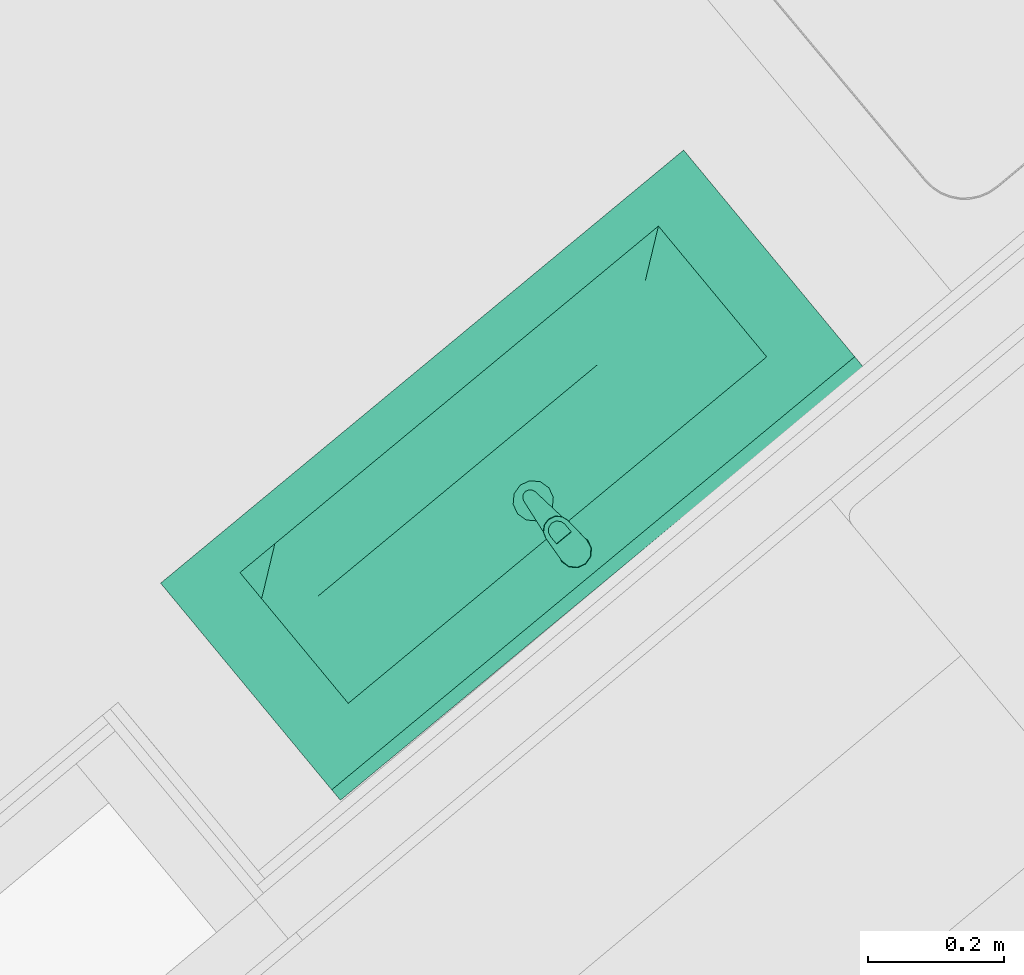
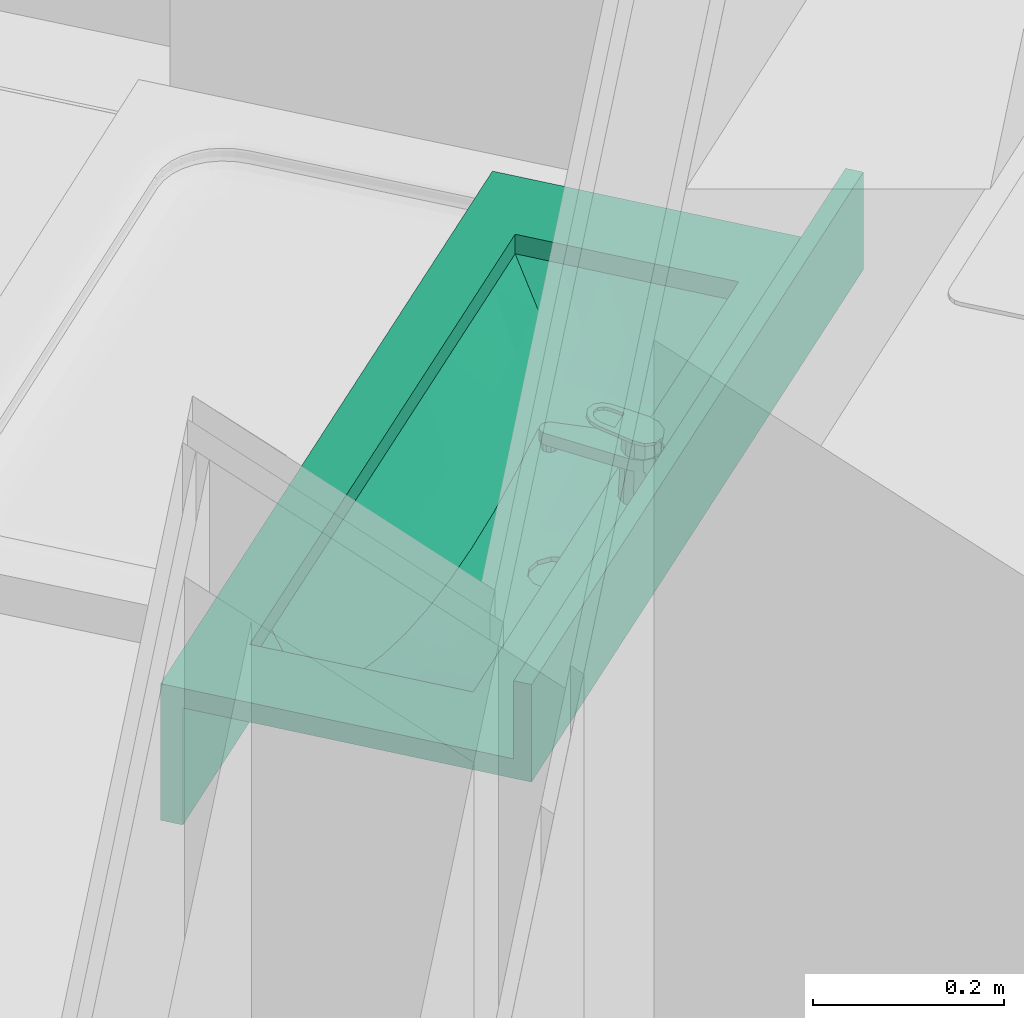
# One storey, part 54 of 58: 1 sanitary terminal.
"""IFC4 building model written with IfcOpenShell, lengths in metres."""

from ifc_helpers import new_model, entity, si_unit, converted_unit, derived_unit, direction, frame, origin_with_axes, place, context, subcontext, project, spatial, polygons, source, transform, mapped, type_object, element, save


model = new_model("IFC4")

# Units and contexts
model_context = context("Model", 3, precision=1e-05, world=origin_with_axes(), true_north=direction((0.0, 1.0)))
body_context = subcontext(model_context, "Body", "Model", "MODEL_VIEW")
ifc_project = project(units=[si_unit("LENGTHUNIT", "METRE"), si_unit("AREAUNIT", "SQUARE_METRE"), si_unit("VOLUMEUNIT", "CUBIC_METRE"), converted_unit("PLANEANGLEUNIT", "DEGREE", entity("IfcPlaneAngleMeasure", 0.0174532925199), si_unit("PLANEANGLEUNIT", "RADIAN"), dimensions=[0, 0, 0, 0, 0, 0, 0]), converted_unit("TIMEUNIT", "Year", entity("IfcTimeMeasure", 31556926.0), si_unit("TIMEUNIT", "SECOND"), dimensions=[0, 0, 1, 0, 0, 0, 0]), si_unit("MASSUNIT", "GRAM", prefix="KILO"), si_unit("THERMODYNAMICTEMPERATUREUNIT", "DEGREE_CELSIUS"), si_unit("LUMINOUSINTENSITYUNIT", "LUMEN"), si_unit("ENERGYUNIT", "JOULE", prefix="MEGA"), derived_unit("THERMALCONDUCTANCEUNIT", [(si_unit("POWERUNIT", "WATT"), 1), (si_unit("LENGTHUNIT", "METRE"), -1), (si_unit("THERMODYNAMICTEMPERATUREUNIT", "KELVIN"), -1)]), derived_unit("SPECIFICHEATCAPACITYUNIT", [(si_unit("ENERGYUNIT", "JOULE"), 1), (si_unit("MASSUNIT", "GRAM", prefix="KILO"), -1), (si_unit("THERMODYNAMICTEMPERATUREUNIT", "KELVIN"), -1)]), derived_unit("MASSDENSITYUNIT", [(si_unit("MASSUNIT", "GRAM", prefix="KILO"), 1), (si_unit("VOLUMEUNIT", "CUBIC_METRE"), -1)])], contexts=[model_context])

# Site, building, storey
site_placement = place(None, frame((-0.00153261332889, -0.00661245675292, 0.0), z_axis=(0.0, 0.0, 1.0), x_axis=(1.0, 0.0, 0.0)))
site = spatial("IfcSite", under=ifc_project, at=site_placement, Name="Site", CompositionType="ELEMENT")
building_placement = place(site_placement, origin_with_axes())
building = spatial("IfcBuilding", under=site, at=building_placement, Name="Building", CompositionType="ELEMENT")
storey_placement = place(building_placement, frame((0.0, 0.0, 5.7), z_axis=(0.0, 0.0, 1.0), x_axis=(1.0, 0.0, 0.0)))
storey = spatial("IfcBuildingStorey", under=building, at=storey_placement, Name="DG1", CompositionType="ELEMENT", Elevation=5.7)

# Sanitary terminal
sanitary_terminal_type = type_object("IfcSanitaryTerminalType", Name="Waschbecken mehrfach 26", PredefinedType="NOTDEFINED")
shared_shape = source(origin_with_axes(), body_context, "Body", "Tessellation", [
    polygons([(-0.5, 0.0, 0.875), (0.5, 0.0, 0.875), (0.5, -0.415119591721, 0.875), (-0.5, -0.415119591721, 0.875), (-0.4, -0.35255979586, 0.875), (0.4, -0.35255979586, 0.875), (0.4, -0.10255979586, 0.875), (-0.4, -0.10255979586, 0.875), (-0.5, 0.0, 0.9), (0.5, 0.0, 0.9), (0.5, -0.415119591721, 0.9), (-0.5, -0.415119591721, 0.9), (-0.4, -0.35255979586, 0.9), (0.4, -0.35255979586, 0.9), (0.4, -0.10255979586, 0.9), (-0.4, -0.10255979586, 0.9)], [[[1, 2, 3, 4], [5, 6, 7, 8]], [[1, 9, 10, 2]], [[2, 10, 11, 3]], [[3, 11, 12, 4]], [[4, 12, 9, 1]], [[13, 14, 6, 5]], [[14, 15, 7, 6]], [[15, 16, 8, 7]], [[16, 13, 5, 8]], [[11, 10, 9, 12], [13, 16, 15, 14]]], closed=True),
    polygons([(-0.5, -0.02, 0.9), (0.5, -0.02, 0.9), (0.5, -0.02, 1.0), (-0.5, -0.02, 1.0), (-0.5, 0.0, 0.9), (0.5, 0.0, 0.9), (0.5, 0.0, 1.0), (-0.5, 0.0, 1.0)], [[[1, 2, 3, 4]], [[1, 5, 6, 2]], [[2, 6, 7, 3]], [[4, 3, 7, 8]], [[5, 1, 4, 8]], [[6, 5, 8, 7]]], closed=True),
    polygons([(-0.5, -0.415119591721, 0.725), (0.5, -0.415119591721, 0.725), (0.5, -0.415119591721, 0.875), (-0.5, -0.415119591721, 0.875), (-0.5, -0.390119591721, 0.725), (0.5, -0.390119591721, 0.725), (0.5, -0.390119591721, 0.875), (-0.5, -0.390119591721, 0.875)], [[[1, 2, 3, 4]], [[1, 5, 6, 2]], [[2, 6, 7, 3]], [[4, 3, 7, 8]], [[5, 1, 4, 8]], [[6, 5, 8, 7]]], closed=True),
    polygons([(0.0, -0.18855104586, 0.775), (-0.015, -0.184531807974, 0.775589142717), (-0.0259807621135, -0.17355104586, 0.776020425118), (-0.03, -0.15855104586, 0.776178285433), (-0.0283946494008, -0.15255979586, 0.776115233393), (-0.0666666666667, -0.15255979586, 0.777618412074), (-0.0666666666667, -0.20255979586, 0.777618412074), (0.0, -0.20255979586, 0.775), (-0.015, -0.132570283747, 0.775589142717), (0.0, -0.12855104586, 0.775), (0.0, -0.10255979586, 0.775), (-0.0666666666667, -0.10255979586, 0.777618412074), (-0.0259807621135, -0.14355104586, 0.776020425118), (-0.133333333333, -0.15255979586, 0.785522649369), (-0.133333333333, -0.20255979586, 0.785522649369), (-0.0666666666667, -0.25255979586, 0.787498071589), (0.0666666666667, -0.15255979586, 0.777618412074), (0.0283946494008, -0.15255979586, 0.776115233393), (0.03, -0.15855104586, 0.776178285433), (0.0259807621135, -0.17355104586, 0.776020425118), (0.015, -0.184531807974, 0.775589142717), (0.0666666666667, -0.20255979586, 0.777618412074), (0.015, -0.132570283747, 0.775589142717), (0.0259807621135, -0.14355104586, 0.776020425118), (0.0666666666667, -0.10255979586, 0.777618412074), (0.2, -0.10255979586, 0.798864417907), (0.266666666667, -0.10255979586, 0.81791333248), (0.333333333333, -0.10255979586, 0.843086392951), (0.4, -0.10255979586, 0.875), (-0.4, -0.10255979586, 0.875), (-0.333333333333, -0.10255979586, 0.843086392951), (-0.266666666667, -0.10255979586, 0.81791333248), (-0.2, -0.10255979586, 0.798864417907), (-0.133333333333, -0.10255979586, 0.785522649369), (0.133333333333, -0.10255979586, 0.785522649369), (-0.2, -0.15255979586, 0.798864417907), (-0.2, -0.20255979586, 0.798864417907), (-0.133333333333, -0.25255979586, 0.794673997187), (0.0, -0.25255979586, 0.785118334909), (0.133333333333, -0.20255979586, 0.785522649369), (0.133333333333, -0.15255979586, 0.785522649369), (0.266666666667, -0.15255979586, 0.81791333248), (0.2, -0.15255979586, 0.798864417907), (0.333333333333, -0.15255979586, 0.843086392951), (0.4, -0.15255979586, 0.875), (-0.333333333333, -0.15255979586, 0.843086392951), (-0.4, -0.15255979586, 0.875), (-0.266666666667, -0.15255979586, 0.81791333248), (-0.266666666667, -0.20255979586, 0.81791333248), (-0.2, -0.25255979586, 0.80675915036), (-0.0666666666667, -0.30255979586, 0.828578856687), (-0.133333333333, -0.30255979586, 0.832507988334), (0.0666666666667, -0.25255979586, 0.787498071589), (0.2, -0.20255979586, 0.798864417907), (0.266666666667, -0.20255979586, 0.81791333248), (0.333333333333, -0.20255979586, 0.843086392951), (0.4, -0.20255979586, 0.875), (0.4, -0.25255979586, 0.875), (0.4, -0.30255979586, 0.875), (0.4, -0.35255979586, 0.875), (-0.4, -0.25255979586, 0.875), (-0.4, -0.20255979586, 0.875), (-0.4, -0.35255979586, 0.875), (-0.4, -0.30255979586, 0.875), (-0.333333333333, -0.20255979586, 0.843086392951), (-0.266666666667, -0.25255979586, 0.823952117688), (-0.2, -0.30255979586, 0.839076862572), (0.0, -0.30255979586, 0.827271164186), (0.133333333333, -0.25255979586, 0.794673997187), (0.2, -0.25255979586, 0.80675915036), (0.266666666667, -0.25255979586, 0.823952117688), (0.333333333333, -0.25255979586, 0.846554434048), (0.333333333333, -0.30255979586, 0.860271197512), (0.333333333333, -0.35255979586, 0.875), (-0.333333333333, -0.30255979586, 0.860271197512), (-0.333333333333, -0.25255979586, 0.846554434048), (-0.266666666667, -0.30255979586, 0.848316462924), (-0.0666666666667, -0.35255979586, 0.875), (-0.133333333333, -0.35255979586, 0.875), (-0.2, -0.35255979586, 0.875), (0.0666666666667, -0.30255979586, 0.828578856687), (-0.266666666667, -0.35255979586, 0.875), (-0.333333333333, -0.35255979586, 0.875), (0.266666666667, -0.35255979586, 0.875), (0.2, -0.35255979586, 0.875), (0.133333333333, -0.35255979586, 0.875), (0.0666666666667, -0.35255979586, 0.875), (0.0, -0.35255979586, 0.875), (0.133333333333, -0.30255979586, 0.832507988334), (0.2, -0.30255979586, 0.839076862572), (0.266666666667, -0.30255979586, 0.848316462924)], [[[1, 2, 3, 4, 5, 6, 7, 8]], [[9, 10, 11, 12, 6, 5, 13]], [[7, 6, 14, 15]], [[16, 8, 7]], [[17, 18, 19, 20, 21, 1, 8, 22]], [[10, 23, 24, 18, 17, 25, 11]], [[26, 27, 28, 29, 30, 31, 32, 33, 34, 12, 11, 25, 35]], [[6, 12, 34, 14]], [[15, 14, 36, 37]], [[38, 7, 15]], [[16, 39, 8]], [[38, 16, 7]], [[39, 22, 8]], [[40, 41, 17, 22]], [[41, 35, 25, 17]], [[42, 27, 26, 43]], [[44, 28, 27, 42]], [[45, 29, 28, 44]], [[46, 31, 30, 47]], [[48, 32, 31, 46]], [[36, 33, 32, 48]], [[14, 34, 33, 36]], [[43, 26, 35, 41]], [[37, 36, 48, 49]], [[50, 15, 37]], [[50, 38, 15]], [[51, 39, 16]], [[52, 16, 38]], [[39, 53, 22]], [[54, 43, 41, 40]], [[53, 40, 22]], [[55, 42, 43, 54]], [[56, 44, 42, 55]], [[57, 58, 59, 60, 29, 45]], [[57, 45, 44, 56]], [[61, 62, 47, 30, 63, 64]], [[65, 46, 47, 62]], [[49, 48, 46, 65]], [[66, 37, 49]], [[66, 50, 37]], [[67, 38, 50]], [[51, 68, 39]], [[52, 51, 16]], [[67, 52, 38]], [[68, 53, 39]], [[69, 54, 40]], [[53, 69, 40]], [[70, 55, 54]], [[71, 56, 55]], [[72, 58, 57]], [[73, 59, 58]], [[74, 60, 59]], [[72, 57, 56]], [[61, 65, 62]], [[63, 75, 64]], [[64, 76, 61]], [[76, 49, 65]], [[76, 66, 49]], [[77, 50, 66]], [[77, 67, 50]], [[78, 68, 51]], [[79, 51, 52]], [[80, 52, 67]], [[68, 81, 53]], [[69, 70, 54]], [[81, 69, 53]], [[70, 71, 55]], [[71, 72, 56]], [[73, 58, 72]], [[74, 59, 73]], [[80, 82, 83, 63, 60, 74, 84, 85, 86, 87, 88, 78, 79]], [[61, 76, 65]], [[63, 83, 75]], [[64, 75, 76]], [[75, 66, 76]], [[75, 77, 66]], [[82, 67, 77]], [[78, 88, 68]], [[79, 78, 51]], [[80, 79, 52]], [[82, 80, 67]], [[88, 81, 68]], [[89, 70, 69]], [[81, 89, 69]], [[90, 71, 70]], [[91, 72, 71]], [[91, 73, 72]], [[84, 74, 73]], [[83, 82, 77]], [[85, 84, 91]], [[86, 85, 90]], [[87, 86, 89]], [[88, 87, 81]], [[83, 77, 75]], [[89, 90, 70]], [[87, 89, 81]], [[90, 91, 71]], [[84, 73, 91]], [[85, 91, 90]], [[86, 90, 89]]], closed=False),
    polygons([(0.03, -0.15855104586, 0.776178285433), (0.0259807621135, -0.17355104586, 0.776020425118), (0.0259807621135, -0.17355104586, 0.77), (0.03, -0.15855104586, 0.77), (0.015, -0.184531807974, 0.775589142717), (0.015, -0.184531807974, 0.77), (0.0, -0.12855104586, 0.77), (0.015, -0.132570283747, 0.77), (0.0259807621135, -0.14355104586, 0.77), (0.0, -0.18855104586, 0.77), (-0.015, -0.184531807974, 0.77), (-0.0259807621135, -0.17355104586, 0.77), (-0.03, -0.15855104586, 0.77), (-0.0259807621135, -0.14355104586, 0.77), (-0.015, -0.132570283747, 0.77), (0.0259807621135, -0.14355104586, 0.776020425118), (0.0, -0.18855104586, 0.775), (0.0, -0.12855104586, 0.775), (0.015, -0.132570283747, 0.775589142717), (-0.015, -0.184531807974, 0.775589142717), (-0.0259807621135, -0.17355104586, 0.776020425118), (-0.03, -0.15855104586, 0.776178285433), (-0.0259807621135, -0.14355104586, 0.776020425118), (-0.015, -0.132570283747, 0.775589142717)], [[[1, 2, 3, 4]], [[2, 5, 6, 3]], [[7, 8, 9, 4, 3, 6, 10, 11, 12, 13, 14, 15]], [[16, 1, 4, 9]], [[5, 17, 10, 6]], [[18, 19, 8, 7]], [[19, 16, 9, 8]], [[17, 20, 11, 10]], [[20, 21, 12, 11]], [[21, 22, 13, 12]], [[22, 23, 14, 13]], [[23, 24, 15, 14]], [[24, 18, 7, 15]]], closed=False),
    polygons([(0.0125, -0.0409091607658, 0.9), (0.0, -0.0375597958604, 0.9), (0.0, -0.0413578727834, 0.975961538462), (0.0105873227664, -0.0442220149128, 0.976507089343), (0.0216506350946, -0.0500597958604, 0.9), (0.025, -0.0625597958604, 0.9), (0.0216506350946, -0.0750597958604, 0.9), (0.0125, -0.084210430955, 0.9), (0.0, -0.0875597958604, 0.9), (-0.0125, -0.084210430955, 0.9), (-0.0216506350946, -0.0750597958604, 0.9), (-0.025, -0.0625597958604, 0.9), (-0.0216506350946, -0.0500597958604, 0.9), (-0.0125, -0.0409091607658, 0.9), (-0.0105873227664, -0.0442220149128, 0.976507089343), (-0.0182735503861, -0.0520095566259, 0.977990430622), (-0.021, -0.0625597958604, 0.98), (-0.0181003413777, -0.0730100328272, 0.981990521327), (-0.0104141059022, -0.0805975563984, 0.983435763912), (0.0, -0.0833616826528, 0.983962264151), (0.0104141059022, -0.0805975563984, 0.983435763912), (0.0181003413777, -0.0730100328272, 0.981990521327), (0.021, -0.0625597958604, 0.98), (0.0182735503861, -0.0520095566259, 0.977990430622)], [[[1, 2, 3, 4]], [[1, 5, 6, 7, 8, 9, 10, 11, 12, 13, 14, 2]], [[2, 14, 15, 3]], [[4, 3, 15, 16, 17, 18, 19, 20, 21, 22, 23, 24]], [[5, 1, 4, 24]], [[6, 5, 24, 23]], [[7, 6, 23, 22]], [[8, 7, 22, 21]], [[9, 8, 21, 20]], [[10, 9, 20, 19]], [[11, 10, 19, 18]], [[12, 11, 18, 17]], [[13, 12, 17, 16]], [[14, 13, 16, 15]]], closed=True),
    polygons([(0.009, -0.16555979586, 0.935), (0.00779422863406, -0.16105979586, 0.935), (0.00779422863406, -0.16105979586, 0.945), (0.009, -0.16555979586, 0.945), (0.00779422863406, -0.17005979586, 0.935), (0.0045, -0.173354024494, 0.935), (0.0, -0.17455979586, 0.935), (-0.0045, -0.173354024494, 0.935), (-0.00779422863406, -0.17005979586, 0.935), (-0.009, -0.16555979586, 0.935), (-0.00779422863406, -0.16105979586, 0.935), (-0.0045, -0.157765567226, 0.935), (0.0, -0.15655979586, 0.935), (0.0045, -0.157765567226, 0.935), (0.0045, -0.157765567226, 0.945), (0.0, -0.15655979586, 0.945), (-0.0045, -0.157765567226, 0.945), (-0.00779422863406, -0.16105979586, 0.945), (-0.009, -0.16555979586, 0.945), (-0.00779422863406, -0.17005979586, 0.945), (-0.0045, -0.173354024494, 0.945), (0.0, -0.17455979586, 0.945), (0.0045, -0.173354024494, 0.945), (0.00779422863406, -0.17005979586, 0.945)], [[[1, 2, 3, 4]], [[1, 5, 6, 7, 8, 9, 10, 11, 12, 13, 14, 2]], [[2, 14, 15, 3]], [[4, 3, 15, 16, 17, 18, 19, 20, 21, 22, 23, 24]], [[5, 1, 4, 24]], [[6, 5, 24, 23]], [[7, 6, 23, 22]], [[8, 7, 22, 21]], [[9, 8, 21, 20]], [[10, 9, 20, 19]], [[11, 10, 19, 18]], [[12, 11, 18, 17]], [[13, 12, 17, 16]], [[14, 13, 16, 15]]], closed=True),
    polygons([(-0.0128717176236, -0.0423034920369, 0.96), (-0.021727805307, -0.0523665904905, 0.96), (-0.0238054, -0.0656096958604, 0.96), (-0.010911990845, -0.166948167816, 0.96), (-0.00902887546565, -0.17184299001, 0.96), (-0.00509332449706, -0.175309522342, 0.96), (3.62679860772e-08, -0.176559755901, 0.96), (0.00509338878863, -0.175309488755, 0.96), (0.00902891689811, -0.171842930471, 0.96), (0.010912, -0.16694809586, 0.96), (0.0238053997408, -0.0656096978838, 0.96), (0.0217278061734, -0.0523665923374, 0.96), (0.0128717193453, -0.042303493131, 0.96), (1.01998896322e-09, -0.0385598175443, 0.96), (0.011, -0.0435072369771, 0.96), (0.0190525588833, -0.0515597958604, 0.96), (0.022, -0.0625597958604, 0.96), (0.0190525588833, -0.0735597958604, 0.96), (0.011, -0.0816123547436, 0.96), (0.0, -0.0845597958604, 0.96), (-0.011, -0.0816123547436, 0.96), (-0.0190525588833, -0.0735597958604, 0.96), (-0.022, -0.0625597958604, 0.96), (-0.0190525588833, -0.0515597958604, 0.96), (-0.011, -0.0435072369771, 0.96), (0.0, -0.0405597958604, 0.96), (-0.021727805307, -0.0523665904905, 0.945), (-0.0128717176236, -0.0423034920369, 0.945), (-0.0238054, -0.0656096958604, 0.945), (-0.010911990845, -0.166948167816, 0.945), (-0.00902887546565, -0.17184299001, 0.945), (-0.00509332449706, -0.175309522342, 0.945), (3.62679860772e-08, -0.176559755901, 0.945), (0.00509338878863, -0.175309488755, 0.945), (0.00902891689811, -0.171842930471, 0.945), (0.010912, -0.16694809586, 0.945), (0.0238053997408, -0.0656096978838, 0.945), (0.0217278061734, -0.0523665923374, 0.945), (0.0128717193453, -0.042303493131, 0.945), (1.01998896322e-09, -0.0385598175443, 0.945), (0.011375, -0.0428577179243, 0.945), (0.0197020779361, -0.0511847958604, 0.945), (0.02275, -0.0625597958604, 0.945), (0.0197020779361, -0.0739347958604, 0.945), (0.011375, -0.0822618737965, 0.945), (0.0, -0.0853097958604, 0.945), (-0.011375, -0.0822618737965, 0.945), (-0.0197020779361, -0.0739347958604, 0.945), (-0.02275, -0.0625597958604, 0.945), (-0.0197020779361, -0.0511847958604, 0.945), (-0.011375, -0.0428577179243, 0.945), (0.0, -0.0398097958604, 0.945)], [[[1, 2, 3, 4, 5, 6, 7, 8, 9, 10, 11, 12, 13, 14], [15, 16, 17, 18, 19, 20, 21, 22, 23, 24, 25, 26]], [[27, 2, 1, 28]], [[29, 3, 2, 27]], [[30, 4, 3, 29]], [[31, 5, 4, 30]], [[32, 6, 5, 31]], [[33, 7, 6, 32]], [[34, 8, 7, 33]], [[35, 9, 8, 34]], [[36, 10, 9, 35]], [[37, 11, 10, 36]], [[38, 12, 11, 37]], [[39, 13, 12, 38]], [[40, 14, 13, 39]], [[28, 1, 14, 40]], [[41, 42, 16, 15]], [[42, 43, 17, 16]], [[43, 44, 18, 17]], [[44, 45, 19, 18]], [[45, 46, 20, 19]], [[21, 20, 46, 47]], [[22, 21, 47, 48]], [[23, 22, 48, 49]], [[24, 23, 49, 50]], [[25, 24, 50, 51]], [[51, 52, 26, 25]], [[52, 41, 15, 26]], [[33, 32, 31, 30, 29, 27, 28, 40, 39, 38, 37, 36, 35, 34], [45, 44, 43, 42, 41, 52, 51, 50, 49, 48, 47, 46]]], closed=True),
    polygons([(0.023893, -0.0642523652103, 0.980322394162), (0.0212964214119, -0.0517850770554, 0.977947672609), (0.0212964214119, -0.0510366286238, 0.981877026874), (0.023893, -0.0635039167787, 0.984251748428), (0.0209459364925, -0.104396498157, 0.987968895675), (0.0176631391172, -0.114074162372, 0.989812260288), (0.0100614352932, -0.121023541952, 0.991135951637), (-4.42652908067e-07, -0.123545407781, 0.991616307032), (-0.0100622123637, -0.121023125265, 0.991135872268), (-0.0176636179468, -0.114073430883, 0.989812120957), (-0.020946, -0.104395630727, 0.987968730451), (-0.023893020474, -0.0642520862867, 0.980322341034), (-0.0212962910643, -0.0517848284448, 0.977947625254), (-0.0124716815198, -0.0424685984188, 0.976173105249), (1.42337785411e-07, -0.0390278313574, 0.975517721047), (0.0124719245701, -0.0424687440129, 0.976173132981), (0.014, -0.0881005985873, 0.984864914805), (-0.014, -0.0881005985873, 0.984864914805), (-0.014, -0.102916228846, 0.987686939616), (-0.012124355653, -0.109792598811, 0.988996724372), (-0.007, -0.114826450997, 0.989955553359), (0.0, -0.116668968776, 0.990306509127), (0.007, -0.114826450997, 0.989955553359), (0.012124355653, -0.109792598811, 0.988996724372), (0.014, -0.102916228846, 0.987686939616), (0.0124719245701, -0.0417202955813, 0.980102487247), (1.42337785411e-07, -0.0382793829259, 0.979447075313), (-0.0124716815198, -0.0417201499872, 0.980102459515), (-0.0212962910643, -0.0510363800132, 0.98187697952), (-0.023893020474, -0.0635036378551, 0.984251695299), (-0.020946, -0.103647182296, 0.991898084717), (-0.0176636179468, -0.113324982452, 0.993741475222), (-0.0100622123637, -0.120274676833, 0.995065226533), (-4.42652908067e-07, -0.122796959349, 0.995545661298), (0.0100614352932, -0.120275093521, 0.995065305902), (0.0176631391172, -0.11332571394, 0.993741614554), (0.0209459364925, -0.103648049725, 0.991898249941), (0.014, -0.0873521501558, 0.988794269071), (0.014, -0.102167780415, 0.991616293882), (0.012124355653, -0.10904415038, 0.992926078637), (0.007, -0.114078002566, 0.993884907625), (0.0, -0.115920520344, 0.994235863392), (-0.007, -0.114078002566, 0.993884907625), (-0.012124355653, -0.10904415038, 0.992926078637), (-0.014, -0.102167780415, 0.991616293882), (-0.014, -0.0873521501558, 0.988794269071)], [[[1, 2, 3, 4]], [[1, 5, 6, 7, 8, 9, 10, 11, 12, 13, 14, 15, 16, 2], [17, 18, 19, 20, 21, 22, 23, 24, 25]], [[2, 16, 26, 3]], [[4, 3, 26, 27, 28, 29, 30, 31, 32, 33, 34, 35, 36, 37], [38, 39, 40, 41, 42, 43, 44, 45, 46]], [[5, 1, 4, 37]], [[6, 5, 37, 36]], [[7, 6, 36, 35]], [[8, 7, 35, 34]], [[9, 8, 34, 33]], [[10, 9, 33, 32]], [[11, 10, 32, 31]], [[12, 11, 31, 30]], [[13, 12, 30, 29]], [[14, 13, 29, 28]], [[15, 14, 28, 27]], [[16, 15, 27, 26]], [[18, 17, 38, 46]], [[19, 18, 46, 45]], [[20, 19, 45, 44]], [[21, 20, 44, 43]], [[22, 21, 43, 42]], [[23, 22, 42, 41]], [[24, 23, 41, 40]], [[25, 24, 40, 39]], [[17, 25, 39, 38]]], closed=True),
])
sanitary_terminal_placement = place(storey_placement, frame((7.60632962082, 24.105104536, 0.145), z_axis=(0.0, 0.0, 1.0), x_axis=(-0.770210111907, -0.637790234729, 0.0)))
element("IfcSanitaryTerminal", 1, at=sanitary_terminal_placement, inside=storey, type_object=sanitary_terminal_type, Name="Objekt-0009", PredefinedType="NOTDEFINED", context=body_context, shape_type="MappedRepresentation", body=[
    mapped(shared_shape, transform((0.0, 0.0, 0.0))),
])

save(model, "model.ifc")
